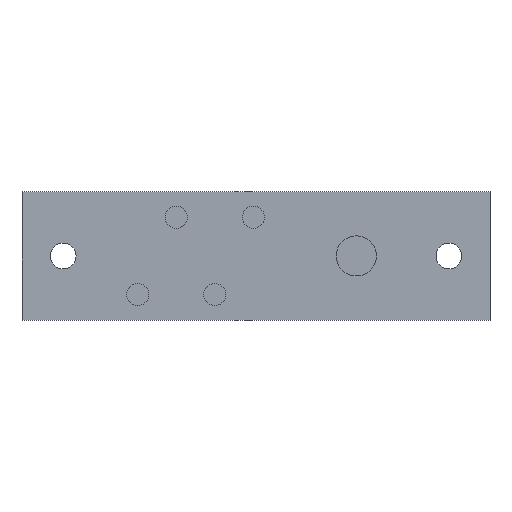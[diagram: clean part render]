
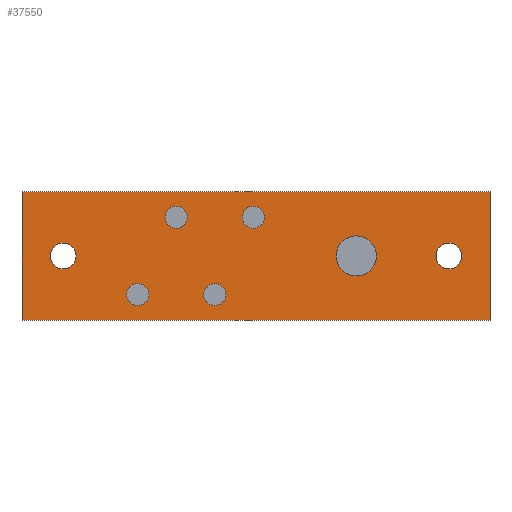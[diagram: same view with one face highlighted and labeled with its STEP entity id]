
A CAD part, top view. The second image highlights one B-rep face of the part: STEP entity #37550.
In plain terms, the highlighted planar face has unit normal (0, 0, 1).
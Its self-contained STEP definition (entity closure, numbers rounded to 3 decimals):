
#35520=CARTESIAN_POINT('',(249.512,66.46,3.));
#35530=VERTEX_POINT('',#35520);
#35560=CARTESIAN_POINT('',(249.512,66.46,3.));
#35570=DIRECTION('',(-1.,0.,0.));
#35580=VECTOR('',#35570,1.);
#35590=LINE('',#35560,#35580);
#35600=CARTESIAN_POINT('',(158.512,66.46,3.));
#35610=VERTEX_POINT('',#35600);
#35620=EDGE_CURVE('',#35530,#35610,#35590,.T.);
#35830=CARTESIAN_POINT('',(249.512,41.46,3.));
#35840=VERTEX_POINT('',#35830);
#35870=CARTESIAN_POINT('',(249.512,41.46,3.));
#35880=DIRECTION('',(0.,1.,0.));
#35890=VECTOR('',#35880,1.);
#35900=LINE('',#35870,#35890);
#35910=EDGE_CURVE('',#35840,#35530,#35900,.T.);
#36070=CARTESIAN_POINT('',(158.512,41.46,3.));
#36080=VERTEX_POINT('',#36070);
#36110=CARTESIAN_POINT('',(158.512,41.46,3.));
#36120=DIRECTION('',(1.,0.,0.));
#36130=VECTOR('',#36120,1.);
#36140=LINE('',#36110,#36130);
#36150=EDGE_CURVE('',#36080,#35840,#36140,.T.);
#36280=CARTESIAN_POINT('',(158.512,66.46,3.));
#36290=DIRECTION('',(0.,-1.,0.));
#36300=VECTOR('',#36290,1.);
#36310=LINE('',#36280,#36300);
#36320=EDGE_CURVE('',#35610,#36080,#36310,.T.);
#36390=CARTESIAN_POINT('',(0.,0.,3.));
#36400=DIRECTION('',(0.,0.,1.));
#36410=DIRECTION('',(1.,0.,0.));
#36420=AXIS2_PLACEMENT_3D('',#36390,#36400,#36410);
#36430=PLANE('',#36420);
#36440=ORIENTED_EDGE('',*,*,#35620,.T.);
#36450=ORIENTED_EDGE('',*,*,#35910,.T.);
#36460=ORIENTED_EDGE('',*,*,#36150,.T.);
#36470=ORIENTED_EDGE('',*,*,#36320,.T.);
#36480=EDGE_LOOP('',(#36470,#36460,#36450,#36440));
#36490=FACE_OUTER_BOUND('',#36480,.T.);
#36500=CARTESIAN_POINT('',(166.512,53.96,3.));
#36510=DIRECTION('',(0.,0.,-1.));
#36520=DIRECTION('',(-1.,0.,0.));
#36530=AXIS2_PLACEMENT_3D('',#36500,#36510,#36520);
#36540=CIRCLE('',#36530,2.5);
#36550=CARTESIAN_POINT('',(169.012,53.96,3.));
#36560=VERTEX_POINT('',#36550);
#36570=CARTESIAN_POINT('',(164.012,53.96,3.));
#36580=VERTEX_POINT('',#36570);
#36590=EDGE_CURVE('',#36560,#36580,#36540,.T.);
#36600=ORIENTED_EDGE('',*,*,#36590,.T.);
#36610=EDGE_CURVE('',#36580,#36560,#36540,.T.);
#36620=ORIENTED_EDGE('',*,*,#36610,.T.);
#36630=EDGE_LOOP('',(#36620,#36600));
#36640=FACE_BOUND('',#36630,.T.);
#36650=CARTESIAN_POINT('',(223.512,53.96,3.));
#36660=DIRECTION('',(0.,0.,-1.));
#36670=DIRECTION('',(-1.,0.,0.));
#36680=AXIS2_PLACEMENT_3D('',#36650,#36660,#36670);
#36690=CIRCLE('',#36680,3.5);
#36700=CARTESIAN_POINT('',(220.012,53.96,3.));
#36710=VERTEX_POINT('',#36700);
#36720=CARTESIAN_POINT('',(227.012,53.96,3.));
#36730=VERTEX_POINT('',#36720);
#36740=EDGE_CURVE('',#36710,#36730,#36690,.T.);
#36750=ORIENTED_EDGE('',*,*,#36740,.T.);
#36760=EDGE_CURVE('',#36730,#36710,#36690,.T.);
#36770=ORIENTED_EDGE('',*,*,#36760,.T.);
#36780=EDGE_LOOP('',(#36770,#36750));
#36790=FACE_BOUND('',#36780,.T.);
#36800=CARTESIAN_POINT('',(188.512,61.46,3.));
#36810=DIRECTION('',(0.,0.,-1.));
#36820=DIRECTION('',(1.,0.,0.));
#36830=AXIS2_PLACEMENT_3D('',#36800,#36810,#36820);
#36840=CIRCLE('',#36830,2.);
#36850=CARTESIAN_POINT('',(190.512,61.46,3.));
#36860=VERTEX_POINT('',#36850);
#36870=CARTESIAN_POINT('',(186.512,61.46,3.));
#36880=VERTEX_POINT('',#36870);
#36890=EDGE_CURVE('',#36860,#36880,#36840,.T.);
#36900=ORIENTED_EDGE('',*,*,#36890,.T.);
#36910=EDGE_CURVE('',#36880,#36860,#36840,.T.);
#36920=ORIENTED_EDGE('',*,*,#36910,.T.);
#36930=EDGE_LOOP('',(#36920,#36900));
#36940=FACE_BOUND('',#36930,.T.);
#36950=CARTESIAN_POINT('',(203.512,61.46,3.));
#36960=DIRECTION('',(0.,0.,-1.));
#36970=DIRECTION('',(-1.,0.,0.));
#36980=AXIS2_PLACEMENT_3D('',#36950,#36960,#36970);
#36990=CIRCLE('',#36980,2.);
#37000=CARTESIAN_POINT('',(205.512,61.46,3.));
#37010=VERTEX_POINT('',#37000);
#37020=CARTESIAN_POINT('',(201.512,61.46,3.));
#37030=VERTEX_POINT('',#37020);
#37040=EDGE_CURVE('',#37010,#37030,#36990,.T.);
#37050=ORIENTED_EDGE('',*,*,#37040,.T.);
#37060=EDGE_CURVE('',#37030,#37010,#36990,.T.);
#37070=ORIENTED_EDGE('',*,*,#37060,.T.);
#37080=EDGE_LOOP('',(#37070,#37050));
#37090=FACE_BOUND('',#37080,.T.);
#37100=CARTESIAN_POINT('',(181.012,46.46,3.));
#37110=DIRECTION('',(0.,0.,-1.));
#37120=DIRECTION('',(-1.,0.,0.));
#37130=AXIS2_PLACEMENT_3D('',#37100,#37110,#37120);
#37140=CIRCLE('',#37130,2.);
#37150=CARTESIAN_POINT('',(183.012,46.46,3.));
#37160=VERTEX_POINT('',#37150);
#37170=CARTESIAN_POINT('',(179.012,46.46,3.));
#37180=VERTEX_POINT('',#37170);
#37190=EDGE_CURVE('',#37160,#37180,#37140,.T.);
#37200=ORIENTED_EDGE('',*,*,#37190,.T.);
#37210=EDGE_CURVE('',#37180,#37160,#37140,.T.);
#37220=ORIENTED_EDGE('',*,*,#37210,.T.);
#37230=EDGE_LOOP('',(#37220,#37200));
#37240=FACE_BOUND('',#37230,.T.);
#37250=CARTESIAN_POINT('',(241.512,53.96,3.));
#37260=DIRECTION('',(0.,0.,-1.));
#37270=DIRECTION('',(-1.,0.,0.));
#37280=AXIS2_PLACEMENT_3D('',#37250,#37260,#37270);
#37290=CIRCLE('',#37280,2.5);
#37300=CARTESIAN_POINT('',(244.012,53.96,3.));
#37310=VERTEX_POINT('',#37300);
#37320=CARTESIAN_POINT('',(239.012,53.96,3.));
#37330=VERTEX_POINT('',#37320);
#37340=EDGE_CURVE('',#37310,#37330,#37290,.T.);
#37350=ORIENTED_EDGE('',*,*,#37340,.T.);
#37360=EDGE_CURVE('',#37330,#37310,#37290,.T.);
#37370=ORIENTED_EDGE('',*,*,#37360,.T.);
#37380=EDGE_LOOP('',(#37370,#37350));
#37390=FACE_BOUND('',#37380,.T.);
#37400=CARTESIAN_POINT('',(196.012,46.46,3.));
#37410=DIRECTION('',(0.,0.,-1.));
#37420=DIRECTION('',(-1.,0.,0.));
#37430=AXIS2_PLACEMENT_3D('',#37400,#37410,#37420);
#37440=CIRCLE('',#37430,2.);
#37450=CARTESIAN_POINT('',(198.012,46.46,3.));
#37460=VERTEX_POINT('',#37450);
#37470=CARTESIAN_POINT('',(194.012,46.46,3.));
#37480=VERTEX_POINT('',#37470);
#37490=EDGE_CURVE('',#37460,#37480,#37440,.T.);
#37500=ORIENTED_EDGE('',*,*,#37490,.T.);
#37510=EDGE_CURVE('',#37480,#37460,#37440,.T.);
#37520=ORIENTED_EDGE('',*,*,#37510,.T.);
#37530=EDGE_LOOP('',(#37520,#37500));
#37540=FACE_BOUND('',#37530,.T.);
#37550=ADVANCED_FACE('',(#36490,#36640,#36790,#36940,#37090,#37240,
#37390,#37540),#36430,.T.);
